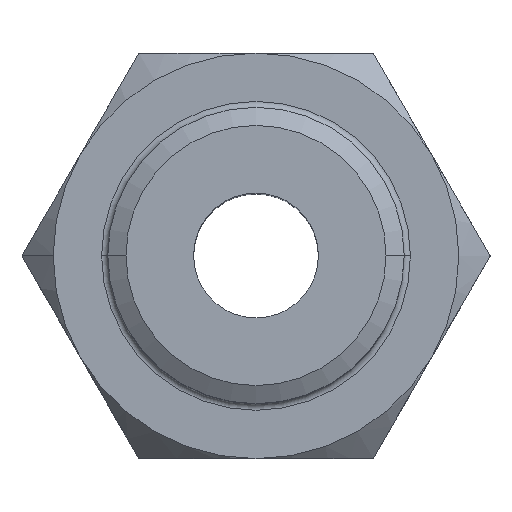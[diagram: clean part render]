
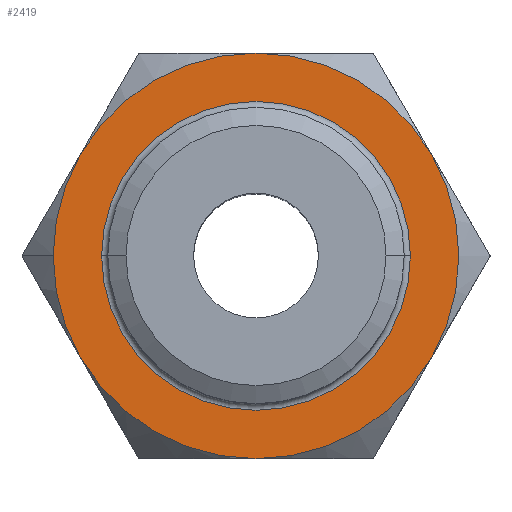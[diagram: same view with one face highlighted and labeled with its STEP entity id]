
A CAD part, top view. The second image highlights one B-rep face of the part: STEP entity #2419.
In plain terms, the highlighted planar face has unit normal (0, 0, 1).
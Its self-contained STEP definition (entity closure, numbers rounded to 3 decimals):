
#6 = CARTESIAN_POINT ( 'NONE',  ( 0., 0., -6.9 ) ) ;
#57 = VERTEX_POINT ( 'NONE', #2811 ) ;
#72 = FACE_BOUND ( 'NONE', #2313, .T. ) ;
#104 = EDGE_CURVE ( 'NONE', #2327, #3423, #1738, .T. ) ;
#164 = CIRCLE ( 'NONE', #4209, 6.5 ) ;
#198 = EDGE_CURVE ( 'NONE', #2934, #57, #3056, .T. ) ;
#231 = CARTESIAN_POINT ( 'NONE',  ( -4.95, 0., -6.9 ) ) ;
#267 = DIRECTION ( 'NONE',  ( 0., 0., -1. ) ) ;
#321 = CARTESIAN_POINT ( 'NONE',  ( 0., 6.5, -6.9 ) ) ;
#349 = VERTEX_POINT ( 'NONE', #428 ) ;
#354 = CARTESIAN_POINT ( 'NONE',  ( 0., 0., -6.9 ) ) ;
#415 = ORIENTED_EDGE ( 'NONE', *, *, #3072, .T. ) ;
#428 = CARTESIAN_POINT ( 'NONE',  ( -6.5, 0., -6.9 ) ) ;
#504 = CIRCLE ( 'NONE', #1943, 6.5 ) ;
#595 = AXIS2_PLACEMENT_3D ( 'NONE', #3871, #2196, #2573 ) ;
#635 = AXIS2_PLACEMENT_3D ( 'NONE', #354, #1644, #1014 ) ;
#737 = VERTEX_POINT ( 'NONE', #321 ) ;
#758 = DIRECTION ( 'NONE',  ( 0., 0., 1. ) ) ;
#763 = ORIENTED_EDGE ( 'NONE', *, *, #1960, .T. ) ;
#788 = DIRECTION ( 'NONE',  ( 1., 0., 0. ) ) ;
#847 = CARTESIAN_POINT ( 'NONE',  ( 0., 0., -6.9 ) ) ;
#854 = CIRCLE ( 'NONE', #4211, 4.95 ) ;
#898 = ORIENTED_EDGE ( 'NONE', *, *, #2077, .T. ) ;
#1014 = DIRECTION ( 'NONE',  ( 1., 0., 0. ) ) ;
#1022 = CARTESIAN_POINT ( 'NONE',  ( 5.629, 3.25, -6.9 ) ) ;
#1046 = CIRCLE ( 'NONE', #635, 6.5 ) ;
#1165 = DIRECTION ( 'NONE',  ( 0., 0., 1. ) ) ;
#1202 = CARTESIAN_POINT ( 'NONE',  ( 0., 0., -6.9 ) ) ;
#1312 = VERTEX_POINT ( 'NONE', #3467 ) ;
#1346 = FACE_OUTER_BOUND ( 'NONE', #2235, .T. ) ;
#1455 = CARTESIAN_POINT ( 'NONE',  ( 4.95, 0., -6.9 ) ) ;
#1644 = DIRECTION ( 'NONE',  ( 0., 0., 1. ) ) ;
#1738 = CIRCLE ( 'NONE', #2991, 6.5 ) ;
#1739 = EDGE_CURVE ( 'NONE', #2104, #3703, #854, .T. ) ;
#1748 = ORIENTED_EDGE ( 'NONE', *, *, #198, .T. ) ;
#1818 = DIRECTION ( 'NONE',  ( 1., 0., 0. ) ) ;
#1824 = DIRECTION ( 'NONE',  ( 1., 0., 0. ) ) ;
#1943 = AXIS2_PLACEMENT_3D ( 'NONE', #1202, #2828, #1818 ) ;
#1960 = EDGE_CURVE ( 'NONE', #1312, #349, #164, .T. ) ;
#2009 = ORIENTED_EDGE ( 'NONE', *, *, #104, .T. ) ;
#2038 = DIRECTION ( 'NONE',  ( 1., 0., 0. ) ) ;
#2077 = EDGE_CURVE ( 'NONE', #57, #2327, #3795, .T. ) ;
#2080 = DIRECTION ( 'NONE',  ( 1., 0., 0. ) ) ;
#2089 = CARTESIAN_POINT ( 'NONE',  ( 0., 0., -6.9 ) ) ;
#2104 = VERTEX_POINT ( 'NONE', #1455 ) ;
#2196 = DIRECTION ( 'NONE',  ( 0., 0., 1. ) ) ;
#2235 = EDGE_LOOP ( 'NONE', ( #3857, #2433, #763, #3126, #1748, #898, #2009 ) ) ;
#2277 = DIRECTION ( 'NONE',  ( 1., 0., 0. ) ) ;
#2305 = EDGE_CURVE ( 'NONE', #737, #1312, #1046, .T. ) ;
#2313 = EDGE_LOOP ( 'NONE', ( #2771, #415 ) ) ;
#2324 = CIRCLE ( 'NONE', #3770, 4.95 ) ;
#2327 = VERTEX_POINT ( 'NONE', #3203 ) ;
#2375 = CARTESIAN_POINT ( 'NONE',  ( 7.5, 0., -6.9 ) ) ;
#2405 = EDGE_CURVE ( 'NONE', #3423, #737, #3641, .T. ) ;
#2419 = ADVANCED_FACE ( 'NONE', ( #1346, #72 ), #4018, .T. ) ;
#2433 = ORIENTED_EDGE ( 'NONE', *, *, #2305, .T. ) ;
#2513 = CARTESIAN_POINT ( 'NONE',  ( 0., 0., -6.9 ) ) ;
#2549 = AXIS2_PLACEMENT_3D ( 'NONE', #2513, #3811, #3458 ) ;
#2573 = DIRECTION ( 'NONE',  ( 1., 0., 0. ) ) ;
#2771 = ORIENTED_EDGE ( 'NONE', *, *, #1739, .T. ) ;
#2811 = CARTESIAN_POINT ( 'NONE',  ( 0., -6.5, -6.9 ) ) ;
#2828 = DIRECTION ( 'NONE',  ( 0., 0., 1. ) ) ;
#2861 = CARTESIAN_POINT ( 'NONE',  ( 0., 0., -6.9 ) ) ;
#2886 = DIRECTION ( 'NONE',  ( 0., 0., -1. ) ) ;
#2890 = EDGE_CURVE ( 'NONE', #349, #2934, #504, .T. ) ;
#2934 = VERTEX_POINT ( 'NONE', #3846 ) ;
#2991 = AXIS2_PLACEMENT_3D ( 'NONE', #847, #1165, #1824 ) ;
#3023 = DIRECTION ( 'NONE',  ( 0., 0., 1. ) ) ;
#3056 = CIRCLE ( 'NONE', #595, 6.5 ) ;
#3072 = EDGE_CURVE ( 'NONE', #3703, #2104, #2324, .T. ) ;
#3126 = ORIENTED_EDGE ( 'NONE', *, *, #2890, .T. ) ;
#3203 = CARTESIAN_POINT ( 'NONE',  ( 5.629, -3.25, -6.9 ) ) ;
#3231 = AXIS2_PLACEMENT_3D ( 'NONE', #2375, #758, #2080 ) ;
#3323 = CARTESIAN_POINT ( 'NONE',  ( 0., 0., -6.9 ) ) ;
#3331 = DIRECTION ( 'NONE',  ( 0., 0., 1. ) ) ;
#3423 = VERTEX_POINT ( 'NONE', #1022 ) ;
#3458 = DIRECTION ( 'NONE',  ( 1., 0., 0. ) ) ;
#3467 = CARTESIAN_POINT ( 'NONE',  ( -5.629, 3.25, -6.9 ) ) ;
#3641 = CIRCLE ( 'NONE', #3717, 6.5 ) ;
#3703 = VERTEX_POINT ( 'NONE', #231 ) ;
#3717 = AXIS2_PLACEMENT_3D ( 'NONE', #3323, #3023, #2038 ) ;
#3770 = AXIS2_PLACEMENT_3D ( 'NONE', #6, #267, #2277 ) ;
#3795 = CIRCLE ( 'NONE', #2549, 6.5 ) ;
#3811 = DIRECTION ( 'NONE',  ( 0., 0., 1. ) ) ;
#3836 = DIRECTION ( 'NONE',  ( 1., 0., 0. ) ) ;
#3846 = CARTESIAN_POINT ( 'NONE',  ( -5.629, -3.25, -6.9 ) ) ;
#3857 = ORIENTED_EDGE ( 'NONE', *, *, #2405, .T. ) ;
#3871 = CARTESIAN_POINT ( 'NONE',  ( 0., 0., -6.9 ) ) ;
#4018 = PLANE ( 'NONE',  #3231 ) ;
#4209 = AXIS2_PLACEMENT_3D ( 'NONE', #2089, #3331, #788 ) ;
#4211 = AXIS2_PLACEMENT_3D ( 'NONE', #2861, #2886, #3836 ) ;
